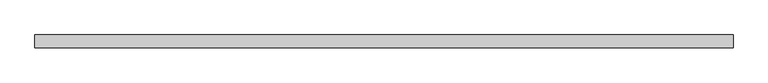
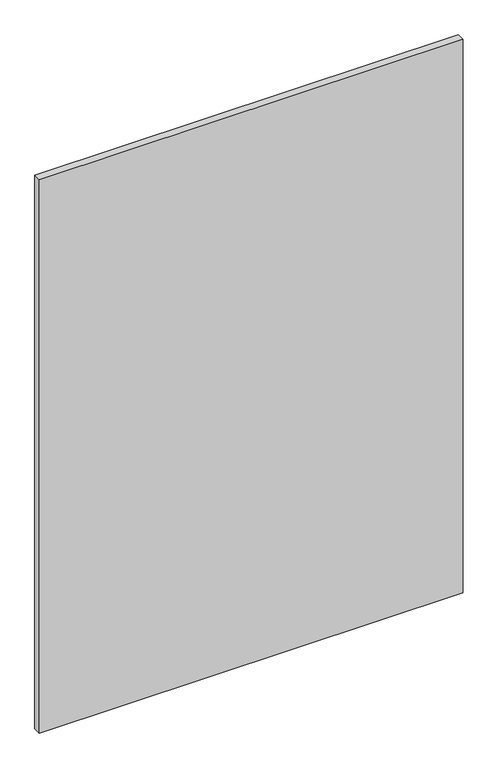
"""IFC4 building model written with IfcOpenShell, lengths in millimetres: plate geometry, Vitré."""

from ifc_helpers import new_model, si_unit, origin, origin_with_axes, place, context, project, spatial, polyline, outline, extrude, source, transform, mapped, element, save


def plate_89aac790(model_context):
    return source(origin(), model_context, "Body", "SweptSolid", [
        extrude(outline(polyline([(-1104.0698048, -20.0), (-1104.0698048, 20.0), (1104.0698048, 20.0), (1104.0698048, -20.0), (-1104.0698048, -20.0)])), origin_with_axes(), (0.0, 0.0, 1.0), 3047.625),
    ])


if __name__ == "__main__":
    model = new_model("IFC4")
    model_context = context("Model", 3, world=origin())
    ifc_project = project(units=[si_unit("LENGTHUNIT", "METRE", prefix="MILLI")], contexts=[model_context])
    site = spatial("IfcSite", under=ifc_project)
    building = spatial("IfcBuilding", under=site)
    placement = place(None, origin())
    plate_shape = plate_89aac790(model_context)
    element("IfcPlate", 1, ObjectType="Vitré", at=placement, inside=building, context=model_context, shape_type="MappedRepresentation", body=[
        mapped(plate_shape, transform((0.0, 0.0, 0.0), x_axis=(1.0, 0.0, 0.0), y_axis=(0.0, 1.0, 0.0), z_axis=(0.0, 0.0, 1.0))),
    ])
    save(model, "model.ifc")
